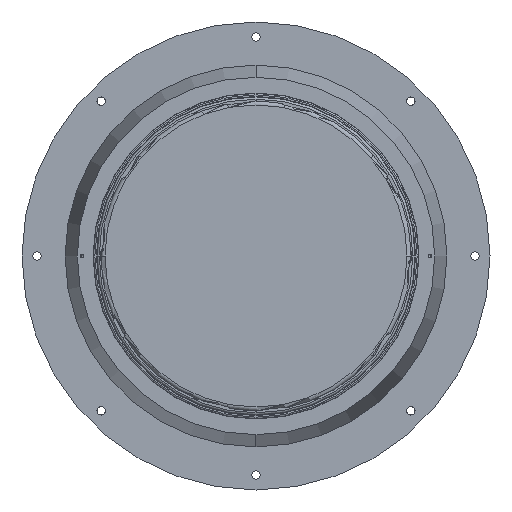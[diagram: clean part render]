
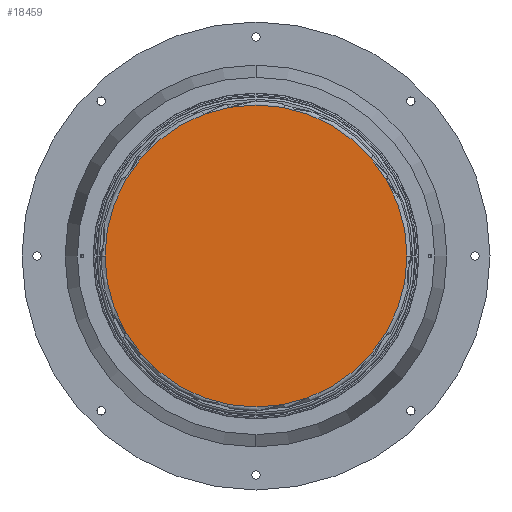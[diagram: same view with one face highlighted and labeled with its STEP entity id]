
A CAD part, front view. The second image highlights one B-rep face of the part: STEP entity #18459.
In plain terms, the highlighted planar face has unit normal (0, -1, 0).
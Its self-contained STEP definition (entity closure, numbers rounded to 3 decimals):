
#1659 = FACE_OUTER_BOUND ( 'NONE', #68992, .T. ) ;
#3248 = CARTESIAN_POINT ( 'NONE',  ( -18.134, -1415.84, 0. ) ) ;
#5483 = AXIS2_PLACEMENT_3D ( 'NONE', #36119, #99217, #45259 ) ;
#12365 = DIRECTION ( 'NONE',  ( 0., 0., -1. ) ) ;
#15213 = AXIS2_PLACEMENT_3D ( 'NONE', #3248, #66589, #12365 ) ;
#17518 = EDGE_CURVE ( 'NONE', #111190, #79180, #55975, .T. ) ;
#18459 = ADVANCED_FACE ( 'NONE', ( #1659 ), #102479, .F. ) ;
#25442 = EDGE_CURVE ( 'NONE', #79180, #111190, #105635, .T. ) ;
#26672 = ORIENTED_EDGE ( 'NONE', *, *, #17518, .T. ) ;
#26999 = CARTESIAN_POINT ( 'NONE',  ( 309.351, -1415.84, 0. ) ) ;
#33346 = ORIENTED_EDGE ( 'NONE', *, *, #25442, .T. ) ;
#36119 = CARTESIAN_POINT ( 'NONE',  ( -18.134, -1415.84, 0. ) ) ;
#45259 = DIRECTION ( 'NONE',  ( 0., 0., -1. ) ) ;
#48958 = CARTESIAN_POINT ( 'NONE',  ( 309.351, -1415.84, 500000. ) ) ;
#55975 = CIRCLE ( 'NONE', #15213, 327.485 ) ;
#58050 = DIRECTION ( 'NONE',  ( 0., 0., 1. ) ) ;
#66589 = DIRECTION ( 'NONE',  ( 0., -1., 0. ) ) ;
#68992 = EDGE_LOOP ( 'NONE', ( #26672, #33346 ) ) ;
#79180 = VERTEX_POINT ( 'NONE', #26999 ) ;
#86448 = AXIS2_PLACEMENT_3D ( 'NONE', #48958, #111870, #58050 ) ;
#89757 = CARTESIAN_POINT ( 'NONE',  ( -345.619, -1415.84, 0. ) ) ;
#99217 = DIRECTION ( 'NONE',  ( 0., -1., 0. ) ) ;
#102479 = PLANE ( 'NONE',  #86448 ) ;
#105635 = CIRCLE ( 'NONE', #5483, 327.485 ) ;
#111190 = VERTEX_POINT ( 'NONE', #89757 ) ;
#111870 = DIRECTION ( 'NONE',  ( 0., 1., 0. ) ) ;
